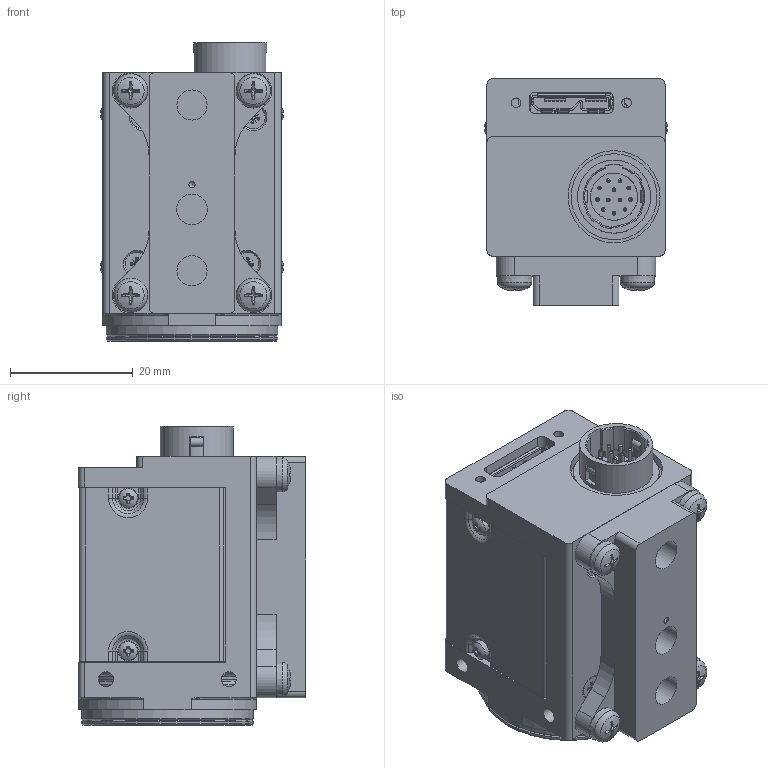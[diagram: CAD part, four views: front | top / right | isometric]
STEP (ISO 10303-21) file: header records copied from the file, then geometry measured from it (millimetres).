
FILE_DESCRIPTION(/* description */ (''),/* implementation_level */ '2;1');
FILE_NAME(/* name */ 'D:\HiDrive\1_Konstruktion\1_KUNDEN\TIS\139-12_135-12_124-11_121-11_FPGA-Kamera\135-12-1_FPGA-Kamera_USB-3_13-8\IPT und STEP Ableitungen für Kunden\135-12-11(FPGA_CS-FP_USB3_13,8_ER-7,4)\135-12-11(FPGA_CS-FP_USB3_13,8_ER-7,4).stp',/* time_stamp */ '2017-10-17T21:08:51+02:00',/* author */ ('khw'),/* organization */ (''),/* preprocessor_version */ 'ST-DEVELOPER v16.5',/* originating_system */ 'Autodesk Inventor 2017',/* authorisation */ '');
FILE_SCHEMA (('AUTOMOTIVE_DESIGN { 1 0 10303 214 3 1 1 }'));
Length unit declared in the file: millimetre
Products named in the file (4): 3_135-12-11(FPGA_CS-FP_USB3_13,8_ER-7,4)_ZB_m.Trip; 2_135-12-11(FPGA_CS-FP_USB3_13,8_ER-7,4)_Ableit.v.1; 124-11-2-00-03(TripodAdapter); ISO 7045 - M3 x 6 - 4.8 - H
Assembly tree (6 placements, depth 2):
  3_135-12-11(FPGA_CS-FP_USB3_13,8_ER-7,4)_ZB_m.Trip
    2_135-12-11(FPGA_CS-FP_USB3_13,8_ER-7,4)_Ableit.v.1
    124-11-2-00-03(TripodAdapter)
    ISO 7045 - M3 x 6 - 4.8 - H  x4
Bounding box: 29.72 x 37 x 48.55 mm (x, y, z)
Volume: 16369.9 mm3; surface area: 19050.6 mm2
Topology: 7 solids, 19 shells, 1652 faces, 4536 edges, 2960 vertices
Faces by surface type: plane 910, cylinder 426, cone 226, torus 70, bspline 12, sphere 8
Full cylindrical faces by diameter (mm): 0.6 x12, 0.7 x1, 0.95 x2, 1 x1, 1.221 x8, 1.425 x4, 1.567 x9, 1.755 x4, 1.9 x4, 2 x2, 2.1 x2, 2.2 x4, 2.459 x10, 2.729 x4, 3 x4, 3.3 x4, 3.8 x4, 4 x4, 4.917 x2, 4.978 x1, 7.7 x1, 8.6 x2, 11.9 x1, 12 x1, 14 x1, 15 x1, 20.2 x1, 21.9 x1, 22 x2, 24.536 x1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
Entity records: 51416 total; most frequent: CARTESIAN_POINT 10450, DIRECTION 8218, ORIENTED_EDGE 8094, EDGE_CURVE 4047, AXIS2_PLACEMENT_3D 2886, VERTEX_POINT 2728, LINE 2446, VECTOR 2446
